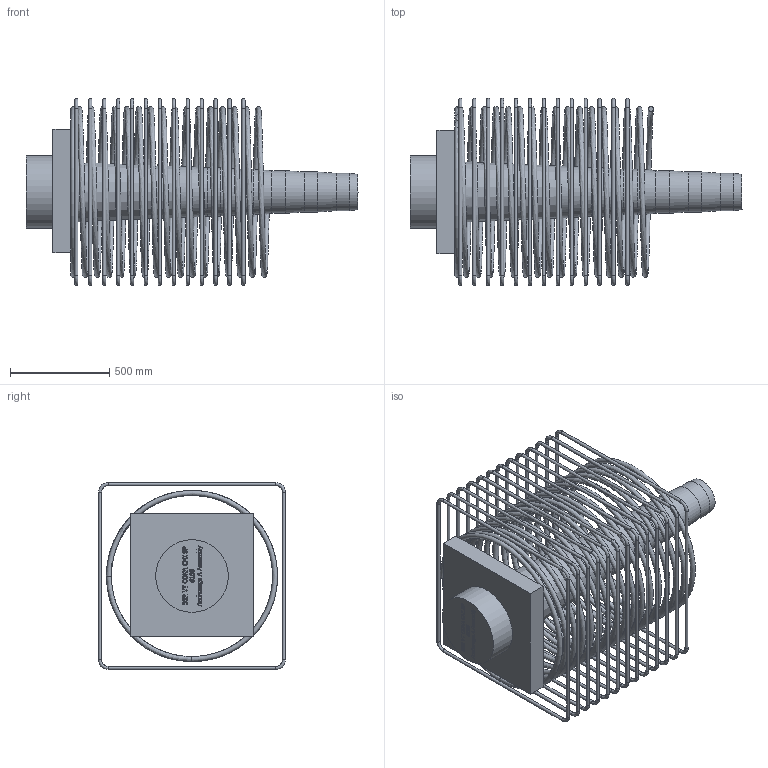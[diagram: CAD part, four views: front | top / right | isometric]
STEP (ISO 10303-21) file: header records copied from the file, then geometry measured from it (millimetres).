
FILE_DESCRIPTION(/* description */ (''),/* implementation_level */ '2;1');
FILE_NAME(/* name */ 'Z:\04 Publications\05 Give-out\BBR\6_3D_Models\BBR VT CONA CMI\BBR VT CONA CMI SP\06106\BBR VT CONA CMI SP 6106_Anchorage A Assembly_CS-34,28.stp',/* time_stamp */ '2017-05-09T10:39:21+02:00',/* author */ ('IP'),/* organization */ (''),/* preprocessor_version */ 'ST-DEVELOPER v16.1',/* originating_system */ 'Autodesk Inventor 2016',/* authorisation */ '');
FILE_SCHEMA (('AUTOMOTIVE_DESIGN { 1 0 10303 214 3 1 1 }'));
Length unit declared in the file: millimetre
Products named in the file (1): BBR VT CONA CMI SP 6106_Anchorage A Assembly_CS-34,28
Bounding box: 1669.1 x 940 x 940 mm (x, y, z)
Volume: 148077092.1 mm3; surface area: 8060657.3 mm2
Topology: 15 solids, 15 shells, 734 faces, 1908 edges, 1234 vertices
Faces by surface type: plane 314, bspline 302, torus 59, cylinder 58, cone 1
Full cylindrical faces by diameter (mm): 16 x52, 187.815 x1, 201.327 x1, 214.839 x1, 228.351 x1, 241.863 x1, 365 x1
Entity records: 31891 total; most frequent: CARTESIAN_POINT 15601, ORIENTED_EDGE 3582, DIRECTION 2175, EDGE_CURVE 1788, VERTEX_POINT 1232, LINE 1057, VECTOR 1057, EDGE_LOOP 913
